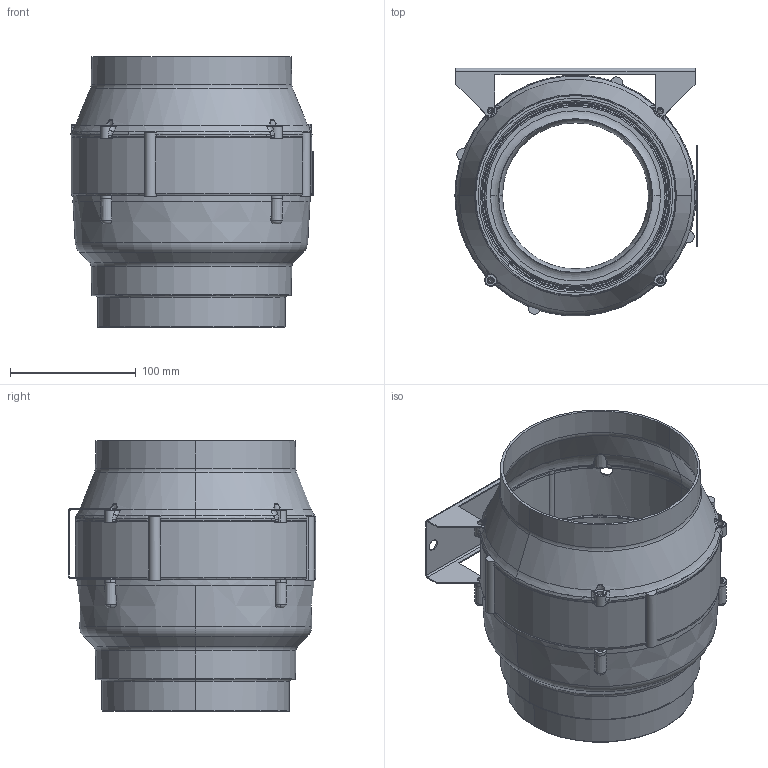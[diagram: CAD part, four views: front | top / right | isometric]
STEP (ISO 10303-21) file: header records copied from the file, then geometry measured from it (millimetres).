
FILE_DESCRIPTION (( 'STEP AP203' ), '1' );
FILE_NAME ('121746-01_EL160E2M01.STEP', '2013-10-07T08:16:25', ( '' ), ( '' ), 'SwSTEP 2.0', 'SolidWorks 2012', '' );
FILE_SCHEMA (( 'CONFIG_CONTROL_DESIGN' ));
Length unit declared in the file: millimetre
Products named in the file (1): 121746-01_EL160E2M01
Bounding box: 192.37 x 196.66 x 215 mm (x, y, z)
Surface area: 299993 mm2 (no closed solid volume)
Topology: 0 solids, 17 shells, 395 faces, 1428 edges, 1026 vertices
Faces by surface type: cylinder 106, plane 81, torus 75, bspline 71, cone 62
Entity records: 20978 total; most frequent: CARTESIAN_POINT 9576, ORIENTED_EDGE 2325, DIRECTION 2214, EDGE_CURVE 1426, VERTEX_POINT 1026, AXIS2_PLACEMENT_3D 927, CIRCLE 602, B_SPLINE_CURVE_WITH_KNOTS 454
